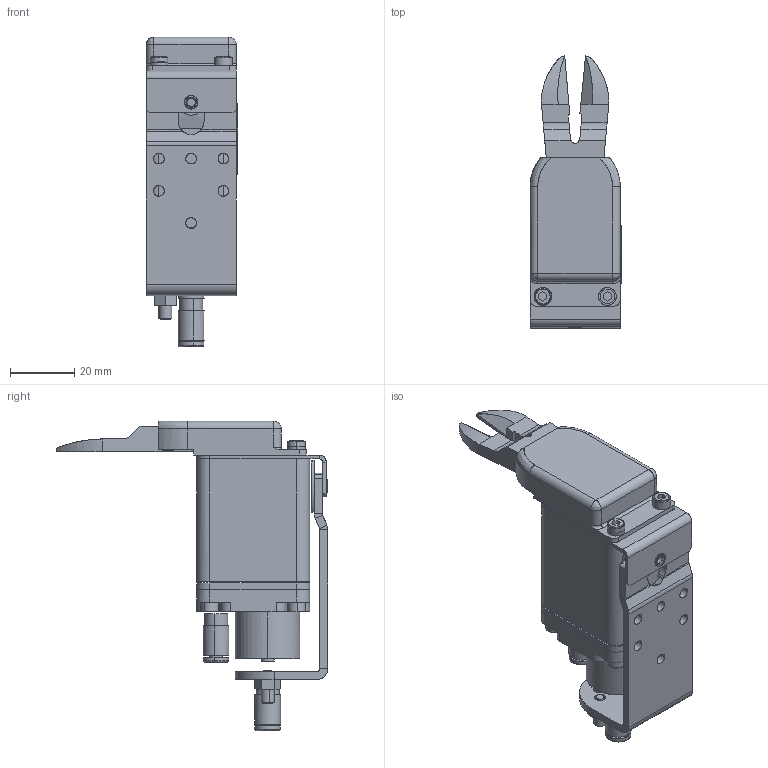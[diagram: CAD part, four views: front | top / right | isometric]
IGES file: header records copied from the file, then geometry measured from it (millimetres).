
Start section: SolidWorks IGES file using analytic representation for surfaces
Global section: file name: C:\Users\STAR056C\Desktop\1080_h-yashiro\図面データ\131632\ネット記載用\131632.IGS; native system: SolidWorks 2018; preprocessor: SolidWorks 2018; author: STAR056C; date: 190430.090518; units: millimetre
Bounding box: 28.55 x 84.35 x 96.1 mm (x, y, z)
Surface area: 25121 mm2 (no closed solid volume)
Topology: 0 solids, 0 shells, 468 faces, 7045 edges, 7041 vertices
Faces by surface type: bspline 468
